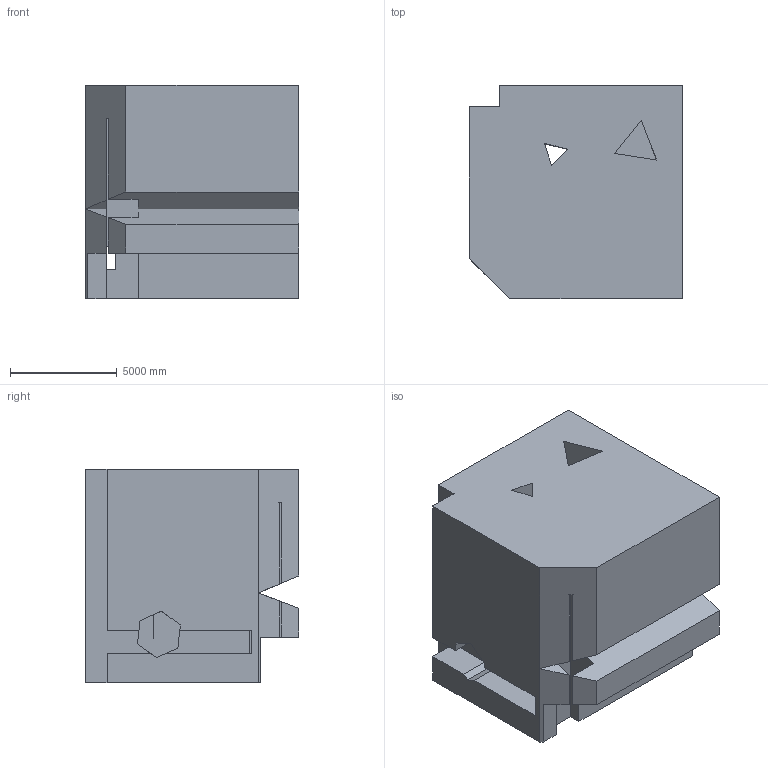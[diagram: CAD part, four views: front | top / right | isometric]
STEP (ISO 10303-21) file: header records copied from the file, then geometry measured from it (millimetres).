
FILE_DESCRIPTION (( 'STEP AP203' ), '1' );
FILE_NAME ('393.STEP', '2022-09-07T13:30:38', ( 'user' ), ( '' ), 'SwSTEP 2.0', 'SolidWorks 2021', '' );
FILE_SCHEMA (( 'CONFIG_CONTROL_DESIGN' ));
Length unit declared in the file: centimetre
Products named in the file (1): 393
Bounding box: 10000 x 10000 x 10000 mm (x, y, z)
Volume: 845428673733.1 mm3; surface area: 781327644.1 mm2
Topology: 1 solids, 1 shells, 63 faces, 195 edges, 130 vertices
Faces by surface type: plane 63
Entity records: 2222 total; most frequent: ORIENTED_EDGE 390, CARTESIAN_POINT 389, DIRECTION 323, EDGE_CURVE 195, LINE 195, VECTOR 195, VERTEX_POINT 130, EDGE_LOOP 67
